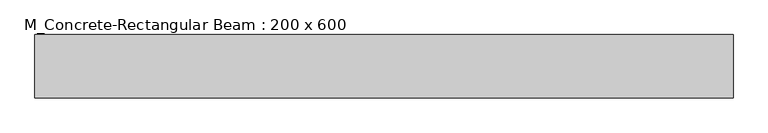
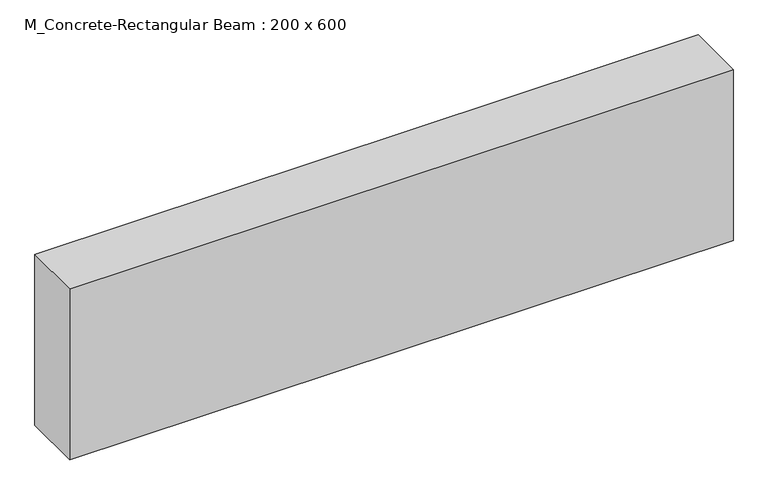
"""IFC4 building model written with IfcOpenShell, lengths in millimetres: beam geometry, M_Concrete-Rectangular Beam : 200 x 600."""

from ifc_helpers import new_model, si_unit, frame, origin, place, context, project, spatial, polyline, outline, extrude, source, transform, mapped, element, save


def m_concrete_rectangular_beam_200_x_600_c0345b76(model_context):
    return source(origin(), model_context, "Body", "SweptSolid", [
        extrude(outline(polyline([(1099.0, 100.0), (1099.0, -100.0), (-1099.0, -100.0), (-1099.0, 100.0), (1099.0, 100.0)])), frame((0.0, 0.0, -300.0), z_axis=(0.0, 0.0, 1.0), x_axis=(1.0, 0.0, 0.0)), (0.0, 0.0, 1.0), 600.0),
    ])


if __name__ == "__main__":
    model = new_model("IFC4")
    model_context = context("Model", 3, world=origin())
    ifc_project = project(units=[si_unit("LENGTHUNIT", "METRE", prefix="MILLI")], contexts=[model_context])
    site = spatial("IfcSite", under=ifc_project)
    building = spatial("IfcBuilding", under=site)
    placement = place(None, origin())
    m_concrete_rectangular_beam_200_x_600_shape = m_concrete_rectangular_beam_200_x_600_c0345b76(model_context)
    element("IfcBeam", 1, ObjectType="M_Concrete-Rectangular Beam : 200 x 600", at=placement, inside=building, context=model_context, shape_type="MappedRepresentation", body=[
        mapped(m_concrete_rectangular_beam_200_x_600_shape, transform((0.0, 0.0, 0.0), x_axis=(1.0, 0.0, 0.0), y_axis=(0.0, 1.0, 0.0), z_axis=(0.0, 0.0, 1.0))),
    ])
    save(model, "model.ifc")
